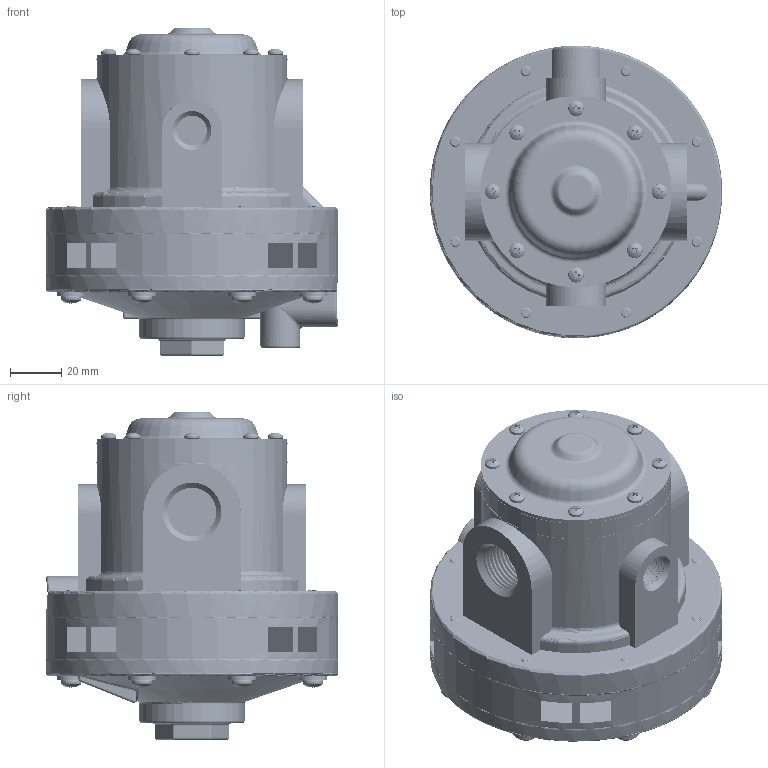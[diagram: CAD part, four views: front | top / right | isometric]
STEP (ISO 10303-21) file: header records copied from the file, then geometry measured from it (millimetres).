
FILE_DESCRIPTION(/* description */ (''),/* implementation_level */ '2;1');
FILE_NAME(/* name */ 'U:/AirCom-Produktdokumentation/Volumenstrombooster/R450/Zeichnungen/CAD-Aircom/3D/R450-04I.step',/* time_stamp */ '2016-11-15T11:08:32+01:00',/* author */ (''),/* organization */ (''),/* preprocessor_version */ 'ST-DEVELOPER v16.5',/* originating_system */ 'Autodesk Translation Framework v5.2.0.2920',/* authorisation */ '');
FILE_SCHEMA (('AUTOMOTIVE_DESIGN { 1 0 10303 214 3 1 1 }'));
Products named in the file (3): B-R450-04I; 92005A120; 92005A234
Assembly tree (16 placements, depth 2):
  B-R450-04I
    92005A120  x8
    92005A234  x8
Bounding box: 114.15 x 114.15 x 128 mm (x, y, z)
Volume: 631938.3 mm3; surface area: 92122.3 mm2
Topology: 17 solids, 18 shells, 831 faces, 2150 edges, 1391 vertices
Faces by surface type: plane 409, cylinder 141, bspline 101, cone 92, torus 62, sphere 26
Full cylindrical faces by diameter (mm): 4 x16, 6 x8, 8 x9, 15.5 x1, 41 x1, 74.5 x2, 74.737 x2, 114 x3, 114.147 x2
Entity records: 49481 total; most frequent: CARTESIAN_POINT 41036, ORIENTED_EDGE 1728, DIRECTION 1648, EDGE_CURVE 863, AXIS2_PLACEMENT_3D 693, VERTEX_POINT 580, EDGE_LOOP 477, FACE_OUTER_BOUND 369
